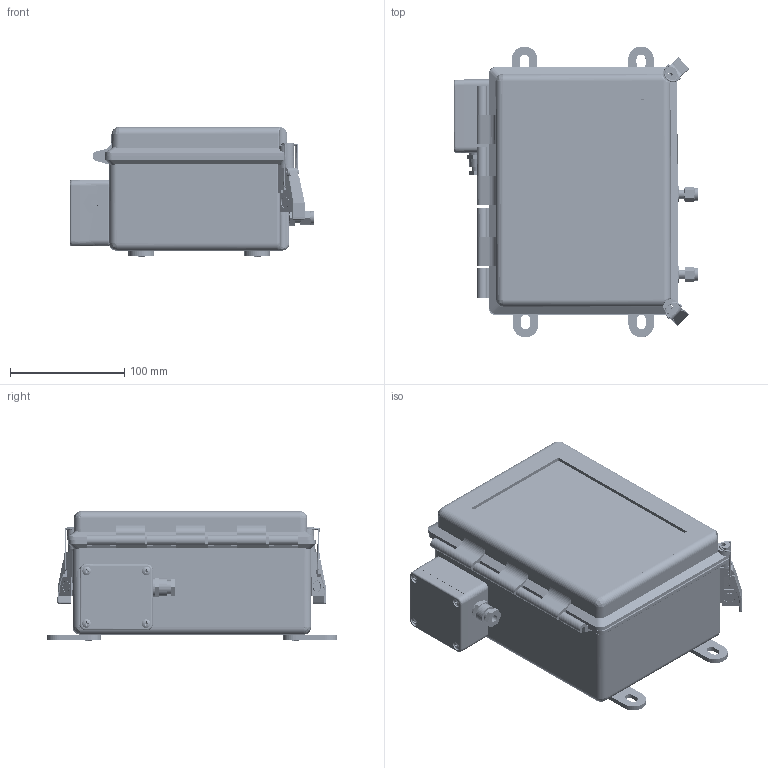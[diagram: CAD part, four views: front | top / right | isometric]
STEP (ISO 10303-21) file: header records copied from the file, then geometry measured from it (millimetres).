
FILE_DESCRIPTION (( 'STEP AP214' ), '1' );
FILE_NAME ('GPR-1500.STEP', '2025-07-22T20:14:57', ( '' ), ( '' ), 'SwSTEP 2.0', 'SolidWorks 2025', '' );
FILE_SCHEMA (( 'AUTOMOTIVE_DESIGN' ));
Length unit declared in the file: inch
Products named in the file (1): GPR-1500
Bounding box: 213.64 x 254.35 x 113.53 mm (x, y, z)
Volume: 1053453.6 mm3; surface area: 696332.8 mm2
Topology: 147 solids, 151 shells, 7802 faces, 20380 edges, 12952 vertices
Faces by surface type: plane 2981, cylinder 2912, bspline 899, cone 749, torus 179, sphere 82
Entity records: 330459 total; most frequent: CARTESIAN_POINT 150348, ORIENTED_EDGE 40580, DIRECTION 33114, EDGE_CURVE 20290, VERTEX_POINT 12952, AXIS2_PLACEMENT_3D 11430, LINE 10254, VECTOR 10254
